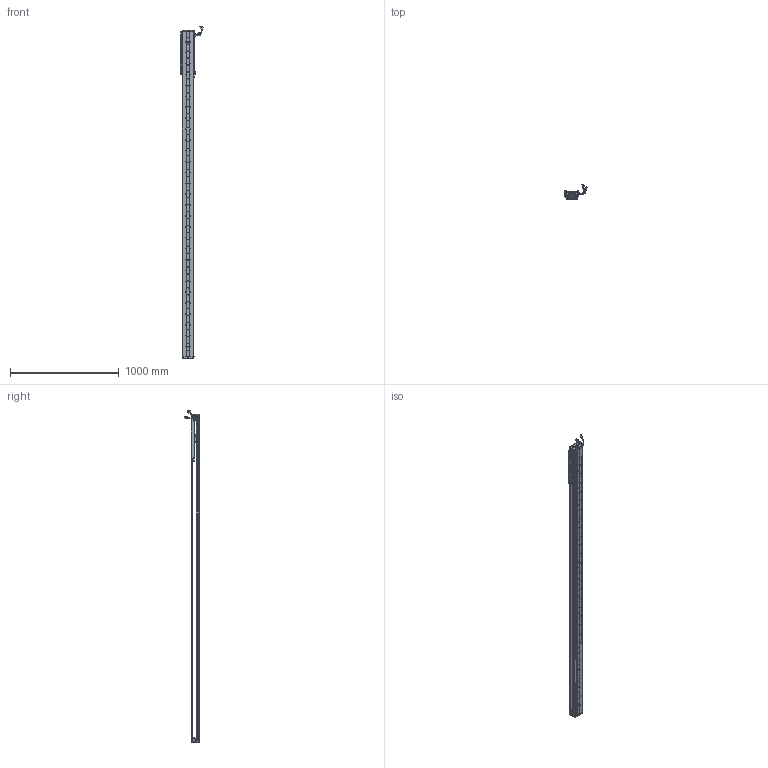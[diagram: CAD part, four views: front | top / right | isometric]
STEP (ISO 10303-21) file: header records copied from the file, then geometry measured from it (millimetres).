
FILE_DESCRIPTION (( 'STEP AP203' ), '1' );
FILE_NAME ('Z5-RY100D-1-L500-B-K.SLDASM_2550.step', '2021-05-17T03:35:10', ( '盈信电脑' ), ( '东莞市道滘镇水果街19号' ), 'SwSTEP 2.0', 'SolidWorks 2016', '' );
FILE_SCHEMA (( 'CONFIG_CONTROL_DESIGN' ));
Length unit declared in the file: millimetre
Products named in the file (36): COVER; SCREW-M1.6-3; SEAL-Part-1; Z-RY100D覜茼んえ; HARNESS; HARNESS-Part-1; SCALE-Part-1; 榋妏寠巭燃_暯_M2_2; HOLDER0; SCREW-M1.7; PBU_SHEET; Z5-RY100-L500詩湍90mm遵_2550; Z5-RY100D-500-倰第菁釱_2550; PSLH080_PSLF2; Z5-RY100铝滑块（21款）; 140雄赽晤鎢ん堤盄; SCREW-M1.6-2; SCALE; Z5-RY100D-1-L500-B-K.SLDASM_2550; 100-Z-臏賑輸盄裔(21遴); SCREW-M1.7-1; Z-RY100D詩湍狟揤裔; 覜茼ん672; SHIELDPLATE; 080黍杅芛假蚾釱21遴; LABEL-Part-1; SCREW-M1.6-1; Z-RY100D詩湍奻揤裔; COVER-Part-1; SEAL; SCREW-M1.6; SCALE-Part-2; Z-100詩湍傷裔啣; HARNESS-Part-2; LABEL; 140蚥薯蝶輸
Assembly tree (43 placements, depth 4):
  Z5-RY100D-1-L500-B-K.SLDASM_2550
    Z5-RY100D-500-倰第菁釱_2550
    Z5-RY100铝滑块（21款）
    PSLH080_PSLF2
      SCALE
        SCALE-Part-1
        SCALE-Part-2
      HARNESS
        HARNESS-Part-1
        HARNESS-Part-2
      LABEL
        LABEL-Part-1
      COVER
        COVER-Part-1
      SEAL
        SEAL-Part-1
      榋妏寠巭燃_暯_M2_2
      SHIELDPLATE
      SCREW-M1.7
      SCREW-M1.7-1
      PBU_SHEET
      SCREW-M1.6
      SCREW-M1.6-1
      SCREW-M1.6-2
      SCREW-M1.6-3
      HOLDER0
    080黍杅芛假蚾釱21遴
    Z-100詩湍傷裔啣  x2
    140蚥薯蝶輸  x2
    覜茼ん672  x3
    Z-RY100D覜茼んえ  x3
    100-Z-臏賑輸盄裔(21遴)
    140雄赽晤鎢ん堤盄
    Z5-RY100-L500詩湍90mm遵_2550
    Z-RY100D詩湍狟揤裔  x2
    Z-RY100D詩湍奻揤裔  x2
Bounding box: 205.79 x 136.11 x 3050.43 mm (x, y, z)
Volume: 5711085.2 mm3; surface area: 2220645.1 mm2
Topology: 38 solids, 38 shells, 3103 faces, 8521 edges, 5448 vertices
Faces by surface type: cylinder 1558, plane 1197, cone 226, torus 69, bspline 53
Entity records: 90791 total; most frequent: CARTESIAN_POINT 18975, DIRECTION 14695, ORIENTED_EDGE 13922, EDGE_CURVE 6961, AXIS2_PLACEMENT_3D 5548, VERTEX_POINT 4516, LINE 3599, VECTOR 3599
